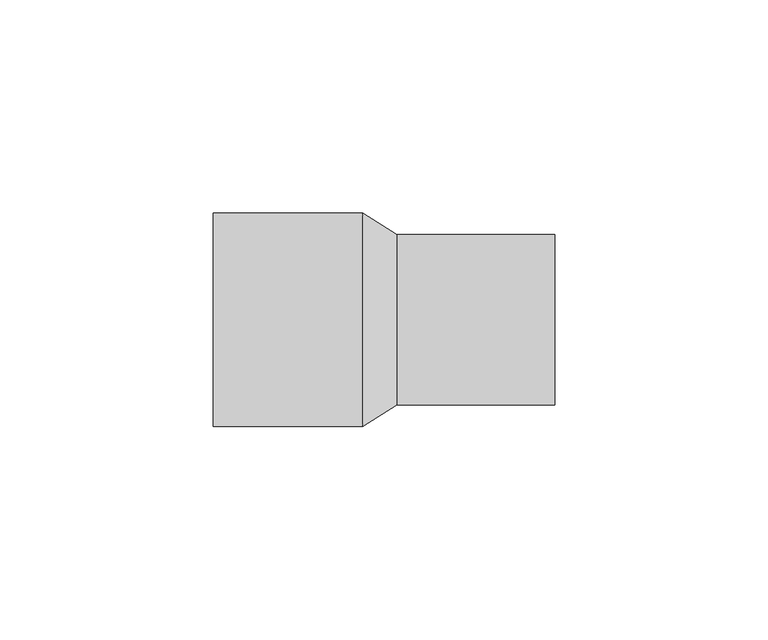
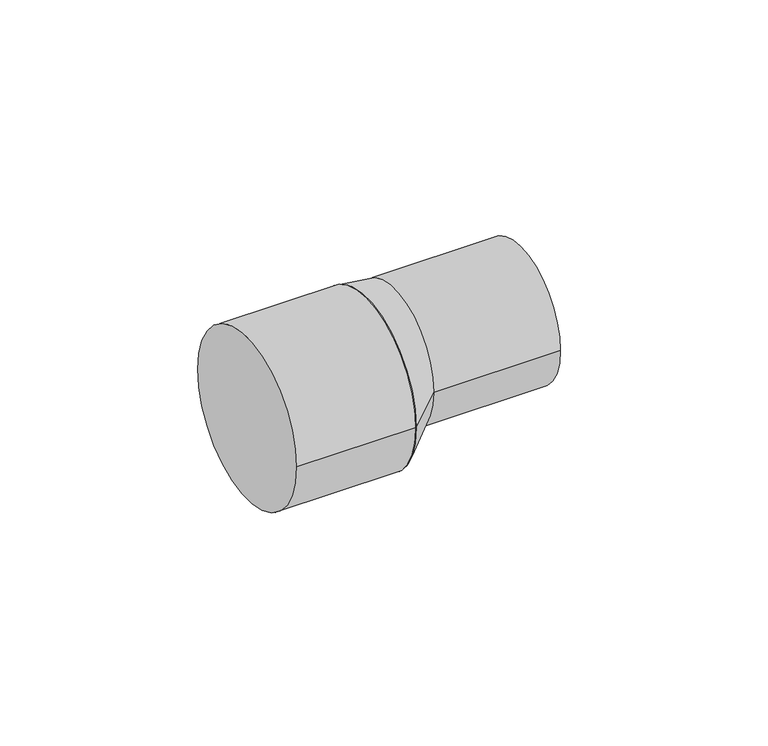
"""IFC4 building model written with IfcOpenShell, lengths in millimetres: pipe fitting geometry, NLRS_52_PIF_UN_PE verloop excentrisch, kort_PRO_101571_geb : DN40-150 / ø40-160 - OD."""

from ifc_helpers import new_model, si_unit, point, frame, frame_2d, origin, origin_2d, place, context, project, spatial, circle_curve, trimmed, segment, composite_curve, outline, extrude, source, transform, mapped, element, save
from ifc_brep_helpers import plane_surface, spline_surface, advanced_brep


def pipe_fitting_35322ad2(model_context):
    return source(origin(), model_context, "Body", "SolidModel", [
        advanced_brep(
        [(4.0, -20.0, 5.0), (4.0, 20.0, 5.0), (-4.0, -25.0, 0.0), (-4.0, 25.0, 0.0)],
        [
            (0, 1, circle_curve(frame((4.0, 0.0, 5.0), z_axis=(1.0, 0.0, 0.0), x_axis=(0.0, 1.0, 0.0)), 20.0)),
            (1, 0, circle_curve(frame((4.0, 0.0, 5.0), z_axis=(1.0, 0.0, 0.0), x_axis=(0.0, 1.0, 0.0)), 20.0)),
            (2, 3, circle_curve(frame((-4.0, 0.0, 0.0), z_axis=(-1.0, 0.0, 0.0), x_axis=(0.0, 1.0, 0.0)), 25.0)),
            (3, 2, circle_curve(frame((-4.0, 0.0, 0.0), z_axis=(-1.0, 0.0, 0.0), x_axis=(0.0, 1.0, 0.0)), 25.0)),
            (3, 1),
            (0, 2),
        ],
        [
            plane_surface(frame((4.0, 0.0, 5.0), z_axis=(1.0, 0.0, 0.0), x_axis=(0.0, 0.0, -1.0))),
            plane_surface(frame((-4.0, 0.0, 0.0), z_axis=(-1.0, 0.0, 0.0), x_axis=(0.0, 0.0, -1.0))),
            spline_surface(2, 1, [[(-4.0, -25.0, 0.0), (4.0, -20.0, 5.0)], [(-4.0, -25.0, -25.0), (4.0, -20.0, -15.0)], [(-4.0, 0.0, -25.0), (4.0, 0.0, -15.0)], [(-4.0, 25.0, -25.0), (4.0, 20.0, -15.0)], [(-4.0, 25.0, 0.0), (4.0, 20.0, 5.0)]], [3, 2, 3], [2, 2], [0.0, 1.0, 2.0], [0.0, 1.0], weights=[[1.0, 1.0], [0.7071067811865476, 0.7071067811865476], [1.0, 1.0], [0.7071067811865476, 0.7071067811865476], [1.0, 1.0]]),
            spline_surface(2, 1, [[(-4.0, 25.0, 0.0), (4.0, 20.0, 5.0)], [(-4.0, 25.0, 25.0), (4.0, 20.0, 25.0)], [(-4.0, 0.0, 25.0), (4.0, 0.0, 25.0)], [(-4.0, -25.0, 25.0), (4.0, -20.0, 25.0)], [(-4.0, -25.0, 0.0), (4.0, -20.0, 5.0)]], [3, 2, 3], [2, 2], [0.0, 1.0, 2.0], [0.0, 1.0], weights=[[1.0, 1.0], [0.7071067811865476, 0.7071067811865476], [1.0, 1.0], [0.7071067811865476, 0.7071067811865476], [1.0, 1.0]]),
        ],
        [
            (0, [[1, 2]]),
            (1, [[3, 4]]),
            (2, [[-4, 5, -1, 6]]),
            (3, [[-3, -6, -2, -5]]),
        ],
    ),
        extrude(outline(composite_curve([segment(trimmed(circle_curve(frame_2d((0.0, 5.0)), 20.0), [point((-20.0, 5.0))], [point((20.0, 5.0))], False, "CARTESIAN"), True, "CONTINUOUS"), segment(trimmed(circle_curve(frame_2d((0.0, 5.0)), 20.0), [point((20.0, 5.0))], [point((-20.0, 5.0))], False, "CARTESIAN"), True, "CONTINUOUS")], self_intersect=False)), frame((4.0, 0.0, 0.0), z_axis=(1.0, 0.0, 0.0), x_axis=(0.0, 1.0, 0.0)), (0.0, 0.0, 1.0), 37.0),
        extrude(outline(composite_curve([segment(trimmed(circle_curve(origin_2d(), 25.0), [point((-25.0, 0.0))], [point((25.0, 0.0))], False, "CARTESIAN"), True, "CONTINUOUS"), segment(trimmed(circle_curve(origin_2d(), 25.0), [point((25.0, 0.0))], [point((-25.0, 0.0))], False, "CARTESIAN"), True, "CONTINUOUS")], self_intersect=False)), frame((-39.0, 0.0, 0.0), z_axis=(1.0, 0.0, 0.0), x_axis=(0.0, 1.0, 0.0)), (0.0, 0.0, 1.0), 35.0),
    ])


if __name__ == "__main__":
    model = new_model("IFC4")
    model_context = context("Model", 3, world=origin())
    ifc_project = project(units=[si_unit("LENGTHUNIT", "METRE", prefix="MILLI")], contexts=[model_context])
    site = spatial("IfcSite", under=ifc_project)
    building = spatial("IfcBuilding", under=site)
    placement = place(None, origin())
    pipe_fitting_shape = pipe_fitting_35322ad2(model_context)
    element("IfcPipeFitting", 1, ObjectType="NLRS_52_PIF_UN_PE verloop excentrisch, kort_PRO_101571_geb : DN40-150 / ø40-160 - OD", at=placement, inside=building, context=model_context, shape_type="MappedRepresentation", body=[
        mapped(pipe_fitting_shape, transform((0.0, 0.0, 0.0), x_axis=(1.0, 0.0, 0.0), y_axis=(0.0, 1.0, 0.0), z_axis=(0.0, 0.0, 1.0))),
    ])
    save(model, "model.ifc")
